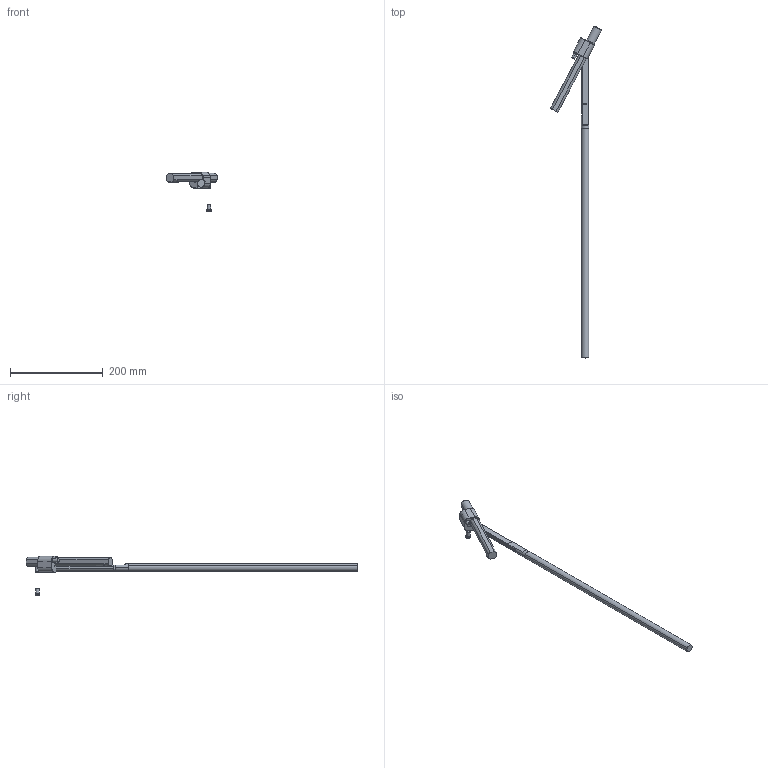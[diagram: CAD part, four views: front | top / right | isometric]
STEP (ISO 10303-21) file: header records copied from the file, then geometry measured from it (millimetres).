
FILE_DESCRIPTION (( 'STEP AP214' ), '1' );
FILE_NAME ('XR34100L-28-S-00.STEP', '2024-07-27T17:21:35', ( '' ), ( '' ), 'SwSTEP 2.0', 'SolidWorks 2021', '' );
FILE_SCHEMA (( 'AUTOMOTIVE_DESIGN' ));
Length unit declared in the file: millimetre
Products named in the file (8): XR34100L-28-S-00; XR34100L-EI-S_EIXR34-28-00; 9DRXXXX-TOR_9DR3408-TOR; 9DR3408FR_Predeterminado; XR34100L-BASE-S_BASE34-28; 9DRXX-AL_9DR34-AL; XR34100L-EV-S_EVXR34-28-00; 9DRXXXXFF_9DR3408FF
Assembly tree (7 placements, depth 2):
  XR34100L-28-S-00
    XR34100L-BASE-S_BASE34-28
    XR34100L-EV-S_EVXR34-28-00
    XR34100L-EI-S_EIXR34-28-00
    9DRXXXXFF_9DR3408FF
    9DRXXXX-TOR_9DR3408-TOR
    9DRXX-AL_9DR34-AL
    9DR3408FR_Predeterminado
Bounding box: 110.47 x 717.03 x 85.2 mm (x, y, z)
Volume: 212066.9 mm3; surface area: 61019.8 mm2
Topology: 8 solids, 8 shells, 237 faces, 565 edges, 353 vertices
Faces by surface type: plane 100, cylinder 69, cone 54, bspline 11, torus 3
Entity records: 9082 total; most frequent: CARTESIAN_POINT 3400, ORIENTED_EDGE 1118, DIRECTION 1102, EDGE_CURVE 559, AXIS2_PLACEMENT_3D 409, VERTEX_POINT 353, VECTOR 284, LINE 284
